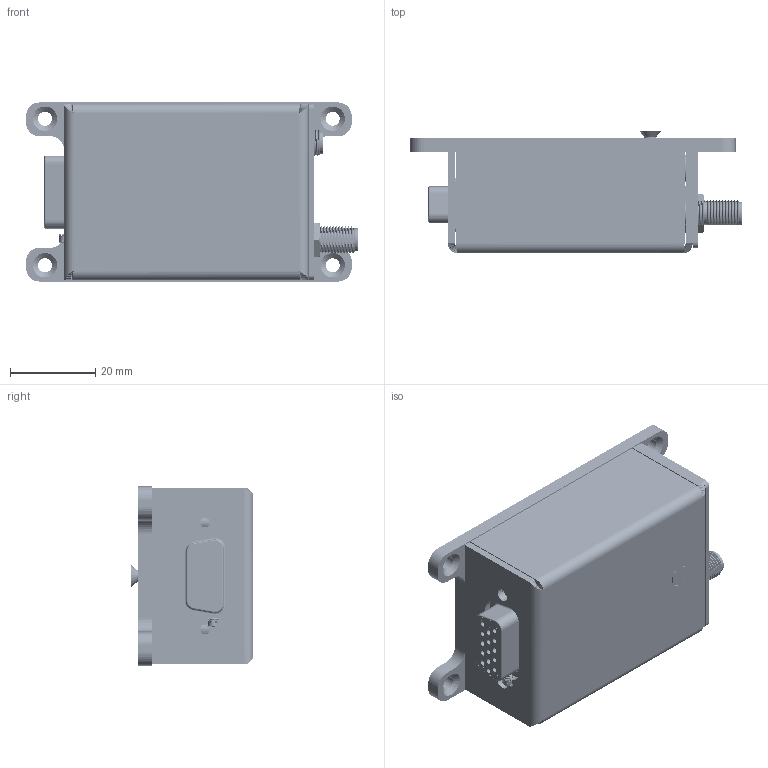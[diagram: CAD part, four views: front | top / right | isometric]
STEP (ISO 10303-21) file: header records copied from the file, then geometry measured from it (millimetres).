
FILE_DESCRIPTION (( 'STEP AP214' ), '1' );
FILE_NAME ('ENC-1013 - SBD WARRIOR GENERAL ARRANGEMENT.STEP', '2017-07-23T11:12:01', ( 'NETE' ), ( 'NETE' ), 'SwSTEP 2.0', 'SolidWorks 2016', '' );
FILE_SCHEMA (( 'AUTOMOTIVE_DESIGN' ));
Length unit declared in the file: inch
Products named in the file (45): CCA-113-A; T-1M50-X.XX-X_-2.5; SMA-J-C-X-ST-BH4_Assembly_Process_6; M-PCB111_PB2; CCA-113_-01BJ1; M-LAB104_A; SMA-NUT-001-X; M-LID101_C; SMA-LWAS-001-X; M-LID102_C; SMA-J-C-X-ST-BH4-CBDY; M-LAB103_A; SUB-SMA-J-C-X-ST-BH3; PCB-1001 - BOARD LAYOUT; SMA-INS-XXX_-004; 1063851664; SMA-J-C-X-ST-BH3-SHL; Extruded; SMA-INS-XXX_-017; 200-015-263; SMA-SKT-XXX-X_-004; 91771A115; PCB-1001 - SBD WARRIOR; HST-01_SMA-003; 91773A081; 94669A100_94669A100; Samtec-SMA-J-P-H-RA-TH1; MH113-MH1RP-01BJ1-0150_FOR DRAWING; 9603 MODEM; 9603 Board; MHF1-P-C-X-RA-CA4_Assembly_Process_6; A-PCB121_C; Rear Cover; MHF1-P-C-X-RA-CA3-INS_MH1_TEFLON_BENT; U.FL-R-SMT_10_Hirose; Box Enclosure; MHF1-P-C-X-RA-CA3-BDY_Body_Bent; M-FNC102_C; Enclosure Mount; MHF1-P-C-X-RA-CA3-SKT_MH1_PIN_BENT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
Assembly tree (65 placements, depth 7):
  ENC-1013 - SBD WARRIOR GENERAL ARRANGEMENT
    Enclosure Mount
    Box Enclosure
    Rear Cover
    PCB-1001 - SBD WARRIOR
      9603 Board
      PCB-1001 - BOARD LAYOUT
        Samtec-SMA-J-P-H-RA-TH1
        MH113-MH1RP-01BJ1-0150_FOR DRAWING
          SMA-J-C-X-ST-BH4_Assembly_Process_6
            HST-01_SMA-003
            SMA-SKT-XXX-X_-004
            SMA-INS-XXX_-017
            SUB-SMA-J-C-X-ST-BH3
              SMA-J-C-X-ST-BH3-SHL
              SMA-INS-XXX_-004
            SMA-J-C-X-ST-BH4-CBDY
            SMA-LWAS-001-X
            SMA-NUT-001-X
            CCA-113_-01BJ1
          MHF1-P-C-X-RA-CA4_Assembly_Process_6
            CCA-113-A
            MHF1-P-C-X-RA-CA4-CBDY_MH1_BODY_(CRIMPED)
            MHF1-P-C-X-RA-CA3-SKT_MH1_PIN_BENT
            MHF1-P-C-X-RA-CA3-BDY_Body_Bent
            MHF1-P-C-X-RA-CA3-INS_MH1_TEFLON_BENT
        91773A081  x2
        91771A115
        200-015-263
        1063851664
          Extruded
      9603 MODEM
        M-LAB103_A
        M-LID102_C
        M-LID101_C
        M-LAB104_A
        A-PCB121_C
          M-PCB111_PB2
          ST4-10-2.50-X-D
            T-1M50-X.XX-X_-2.5  x20
            ST4-XX-X.XX-D-XX_-2.50_(2x10)
          M-FNC101_C
          M-FNC102_C
          U.FL-R-SMT_10_Hirose
      94669A100_94669A100  x2
Bounding box: 77.68 x 28.69 x 41.91 mm (x, y, z)
Volume: 28056.4 mm3; surface area: 43915.5 mm2
Topology: 61 solids, 65 shells, 5574 faces, 14664 edges, 9399 vertices
Faces by surface type: plane 2705, cylinder 2023, bspline 625, cone 209, sphere 8, torus 4
Entity records: 229168 total; most frequent: CARTESIAN_POINT 81119, ORIENTED_EDGE 25100, DIRECTION 21754, EDGE_CURVE 12556, VERTEX_POINT 8031, VECTOR 7354, LINE 7354, AXIS2_PLACEMENT_3D 7200
